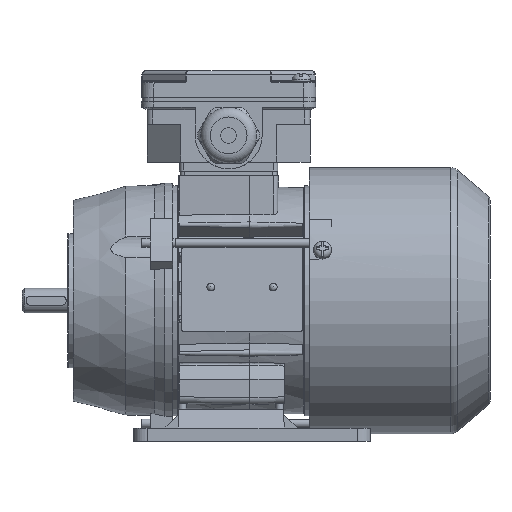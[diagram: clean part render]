
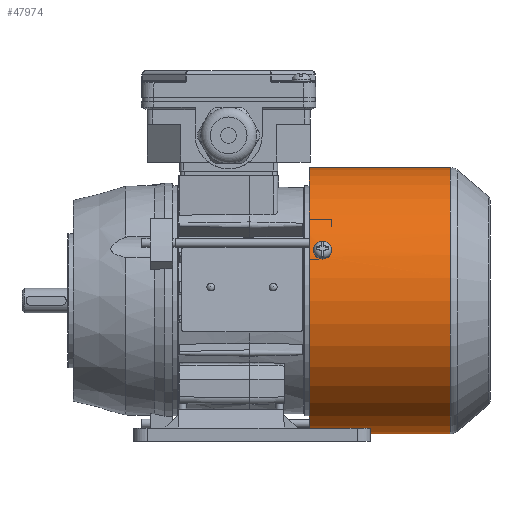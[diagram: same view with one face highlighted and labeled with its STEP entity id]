
A CAD part, front view. The second image highlights one B-rep face of the part: STEP entity #47974.
In plain terms, the highlighted cylindrical face has radius 59.6 mm (diameter 119.2 mm), a full revolution.
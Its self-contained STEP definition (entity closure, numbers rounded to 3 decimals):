
#1139=B_SPLINE_CURVE_WITH_KNOTS('',3,(#75191,#75192,#75193,#75194,#75195,
#75196,#75197),.UNSPECIFIED.,.F.,.F.,(4,1,1,1,4),(0.,0.002,
0.004,0.006,0.008),
 .UNSPECIFIED.);
#1141=B_SPLINE_CURVE_WITH_KNOTS('',3,(#75215,#75216,#75217,#75218,#75219,
#75220,#75221),.UNSPECIFIED.,.F.,.F.,(4,1,1,1,4),(0.,
0.002,0.004,0.006,0.008),
 .UNSPECIFIED.);
#1143=B_SPLINE_CURVE_WITH_KNOTS('',3,(#75243,#75244,#75245,#75246,#75247,
#75248,#75249),.UNSPECIFIED.,.F.,.F.,(4,1,1,1,4),(0.,0.002,
0.004,0.006,0.008),
 .UNSPECIFIED.);
#1145=B_SPLINE_CURVE_WITH_KNOTS('',3,(#75267,#75268,#75269,#75270,#75271,
#75272,#75273),.UNSPECIFIED.,.F.,.F.,(4,1,1,1,4),(0.,0.002,
0.004,0.006,0.008),
 .UNSPECIFIED.);
#1146=B_SPLINE_CURVE_WITH_KNOTS('',3,(#75278,#75279,#75280,#75281,#75282,
#75283,#75284),.UNSPECIFIED.,.F.,.F.,(4,1,1,1,4),(0.,
0.002,0.004,0.006,0.007),
 .UNSPECIFIED.);
#1147=B_SPLINE_CURVE_WITH_KNOTS('',3,(#75287,#75288,#75289,#75290,#75291,
#75292,#75293),.UNSPECIFIED.,.F.,.F.,(4,1,1,1,4),(0.,
0.002,0.004,0.006,0.007),
 .UNSPECIFIED.);
#16427=ORIENTED_EDGE('',*,*,#22310,.T.);
#16428=ORIENTED_EDGE('',*,*,#22307,.T.);
#16429=ORIENTED_EDGE('',*,*,#22304,.T.);
#16430=ORIENTED_EDGE('',*,*,#22312,.T.);
#16431=ORIENTED_EDGE('',*,*,#22313,.F.);
#16432=ORIENTED_EDGE('',*,*,#22314,.F.);
#16433=ORIENTED_EDGE('',*,*,#22297,.T.);
#16434=ORIENTED_EDGE('',*,*,#22294,.T.);
#16435=ORIENTED_EDGE('',*,*,#22291,.T.);
#16436=ORIENTED_EDGE('',*,*,#22299,.T.);
#16437=ORIENTED_EDGE('',*,*,#18074,.F.);
#16438=ORIENTED_EDGE('',*,*,#22300,.T.);
#18074=EDGE_CURVE('',#23146,#23146,#26535,.T.);
#22291=EDGE_CURVE('',#25948,#25951,#1139,.T.);
#22294=EDGE_CURVE('',#25952,#25948,#27665,.F.);
#22297=EDGE_CURVE('',#25954,#25952,#1141,.T.);
#22299=EDGE_CURVE('',#25951,#25954,#27667,.F.);
#22300=EDGE_CURVE('',#25956,#25956,#27668,.F.);
#22304=EDGE_CURVE('',#25957,#25960,#1143,.T.);
#22307=EDGE_CURVE('',#25961,#25957,#27670,.F.);
#22310=EDGE_CURVE('',#25963,#25961,#1145,.T.);
#22312=EDGE_CURVE('',#25960,#25963,#27672,.F.);
#22313=EDGE_CURVE('',#25965,#25966,#1146,.T.);
#22314=EDGE_CURVE('',#25966,#25965,#1147,.T.);
#23146=VERTEX_POINT('',#61874);
#25948=VERTEX_POINT('',#75179);
#25951=VERTEX_POINT('',#75190);
#25952=VERTEX_POINT('',#75200);
#25954=VERTEX_POINT('',#75206);
#25956=VERTEX_POINT('',#75228);
#25957=VERTEX_POINT('',#75231);
#25960=VERTEX_POINT('',#75242);
#25961=VERTEX_POINT('',#75252);
#25963=VERTEX_POINT('',#75258);
#25965=VERTEX_POINT('',#75285);
#25966=VERTEX_POINT('',#75286);
#26535=CIRCLE('',#48367,59.6);
#27665=CIRCLE('',#51197,59.6);
#27667=CIRCLE('',#51202,59.6);
#27668=CIRCLE('',#51204,59.6);
#27670=CIRCLE('',#51208,59.6);
#27672=CIRCLE('',#51212,59.6);
#29793=EDGE_LOOP('',(#16427,#16428,#16429,#16430));
#29794=EDGE_LOOP('',(#16431,#16432));
#29795=EDGE_LOOP('',(#16433,#16434,#16435,#16436));
#29796=EDGE_LOOP('',(#16437));
#29797=EDGE_LOOP('',(#16438));
#32082=FACE_BOUND('',#29793,.T.);
#32083=FACE_BOUND('',#29794,.T.);
#32084=FACE_BOUND('',#29795,.T.);
#32085=FACE_BOUND('',#29796,.T.);
#32086=FACE_BOUND('',#29797,.T.);
#32935=CYLINDRICAL_SURFACE('',#51213,59.6);
#47974=ADVANCED_FACE('',(#32082,#32083,#32084,#32085,#32086),#32935,.T.);
#48367=AXIS2_PLACEMENT_3D('',#61873,#51967,#51968);
#51197=AXIS2_PLACEMENT_3D('',#75203,#59866,#59867);
#51202=AXIS2_PLACEMENT_3D('',#75225,#59877,#59878);
#51204=AXIS2_PLACEMENT_3D('',#75227,#59881,#59882);
#51208=AXIS2_PLACEMENT_3D('',#75255,#59892,#59893);
#51212=AXIS2_PLACEMENT_3D('',#75276,#59901,#59902);
#51213=AXIS2_PLACEMENT_3D('',#75277,#59903,#59904);
#51967=DIRECTION('',(-1.,0.,0.));
#51968=DIRECTION('',(0.,0.,1.));
#59866=DIRECTION('',(-1.,0.,0.));
#59867=DIRECTION('',(0.,0.866,-0.5));
#59877=DIRECTION('',(1.,0.,0.));
#59878=DIRECTION('',(0.,-0.866,0.5));
#59881=DIRECTION('',(1.,0.,0.));
#59882=DIRECTION('',(0.,0.,-1.));
#59892=DIRECTION('',(-1.,0.,0.));
#59893=DIRECTION('',(0.,0.,1.));
#59901=DIRECTION('',(1.,0.,0.));
#59902=DIRECTION('',(0.,0.,-1.));
#59903=DIRECTION('',(-1.,0.,0.));
#59904=DIRECTION('',(0.,0.,1.));
#61873=CARTESIAN_POINT('',(26.5,0.,0.));
#61874=CARTESIAN_POINT('',(26.5,0.,59.6));
#75179=CARTESIAN_POINT('',(35.,46.437,37.36));
#75190=CARTESIAN_POINT('',(30.,46.437,37.36));
#75191=CARTESIAN_POINT('',(35.,46.437,37.36));
#75192=CARTESIAN_POINT('',(35.,46.023,37.874));
#75193=CARTESIAN_POINT('',(34.458,45.191,38.867));
#75194=CARTESIAN_POINT('',(32.502,44.648,39.479));
#75195=CARTESIAN_POINT('',(30.542,45.19,38.869));
#75196=CARTESIAN_POINT('',(30.,46.023,37.874));
#75197=CARTESIAN_POINT('',(30.,46.437,37.36));
#75200=CARTESIAN_POINT('',(35.,47.484,36.02));
#75203=CARTESIAN_POINT('',(35.,0.,0.));
#75206=CARTESIAN_POINT('',(30.,47.484,36.02));
#75215=CARTESIAN_POINT('',(30.,47.484,36.02));
#75216=CARTESIAN_POINT('',(30.,47.883,35.493));
#75217=CARTESIAN_POINT('',(30.542,48.645,34.446));
#75218=CARTESIAN_POINT('',(32.498,49.108,33.771));
#75219=CARTESIAN_POINT('',(34.458,48.646,34.444));
#75220=CARTESIAN_POINT('',(35.,47.883,35.493));
#75221=CARTESIAN_POINT('',(35.,47.484,36.02));
#75225=CARTESIAN_POINT('',(30.,0.,0.));
#75227=CARTESIAN_POINT('',(89.809,0.,0.));
#75228=CARTESIAN_POINT('',(89.809,0.,-59.6));
#75231=CARTESIAN_POINT('',(35.,-55.573,21.536));
#75242=CARTESIAN_POINT('',(30.,-55.573,21.536));
#75243=CARTESIAN_POINT('',(35.,-55.573,21.536));
#75244=CARTESIAN_POINT('',(35.,-55.812,20.92));
#75245=CARTESIAN_POINT('',(34.458,-56.255,19.703));
#75246=CARTESIAN_POINT('',(32.502,-56.514,18.927));
#75247=CARTESIAN_POINT('',(30.542,-56.256,19.701));
#75248=CARTESIAN_POINT('',(30.,-55.812,20.92));
#75249=CARTESIAN_POINT('',(30.,-55.573,21.536));
#75252=CARTESIAN_POINT('',(35.,-54.936,23.112));
#75255=CARTESIAN_POINT('',(35.,0.,0.));
#75258=CARTESIAN_POINT('',(30.,-54.936,23.112));
#75267=CARTESIAN_POINT('',(30.,-54.936,23.112));
#75268=CARTESIAN_POINT('',(30.,-54.68,23.721));
#75269=CARTESIAN_POINT('',(30.542,-54.154,24.905));
#75270=CARTESIAN_POINT('',(32.498,-53.8,25.643));
#75271=CARTESIAN_POINT('',(34.458,-54.153,24.907));
#75272=CARTESIAN_POINT('',(35.,-54.68,23.721));
#75273=CARTESIAN_POINT('',(35.,-54.936,23.112));
#75276=CARTESIAN_POINT('',(30.,0.,0.));
#75277=CARTESIAN_POINT('',(-33.5,0.,0.));
#75278=CARTESIAN_POINT('',(35.,8.295,-59.02));
#75279=CARTESIAN_POINT('',(34.937,7.681,-59.106));
#75280=CARTESIAN_POINT('',(34.356,6.499,-59.249));
#75281=CARTESIAN_POINT('',(32.502,5.777,-59.318));
#75282=CARTESIAN_POINT('',(30.649,6.493,-59.25));
#75283=CARTESIAN_POINT('',(30.063,7.681,-59.106));
#75284=CARTESIAN_POINT('',(30.,8.295,-59.02));
#75285=CARTESIAN_POINT('',(35.,8.295,-59.02));
#75286=CARTESIAN_POINT('',(30.,8.295,-59.02));
#75287=CARTESIAN_POINT('',(30.,8.295,-59.02));
#75288=CARTESIAN_POINT('',(30.063,8.908,-58.934));
#75289=CARTESIAN_POINT('',(30.644,10.084,-58.746));
#75290=CARTESIAN_POINT('',(32.498,10.797,-58.613));
#75291=CARTESIAN_POINT('',(34.351,10.09,-58.745));
#75292=CARTESIAN_POINT('',(34.937,8.908,-58.934));
#75293=CARTESIAN_POINT('',(35.,8.295,-59.02));
